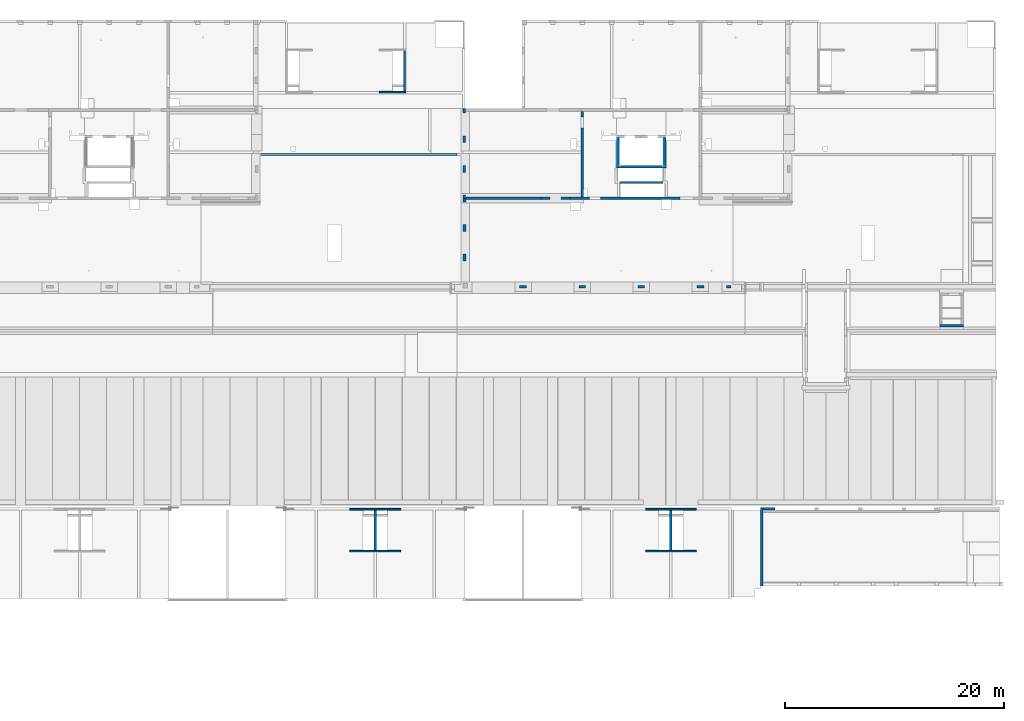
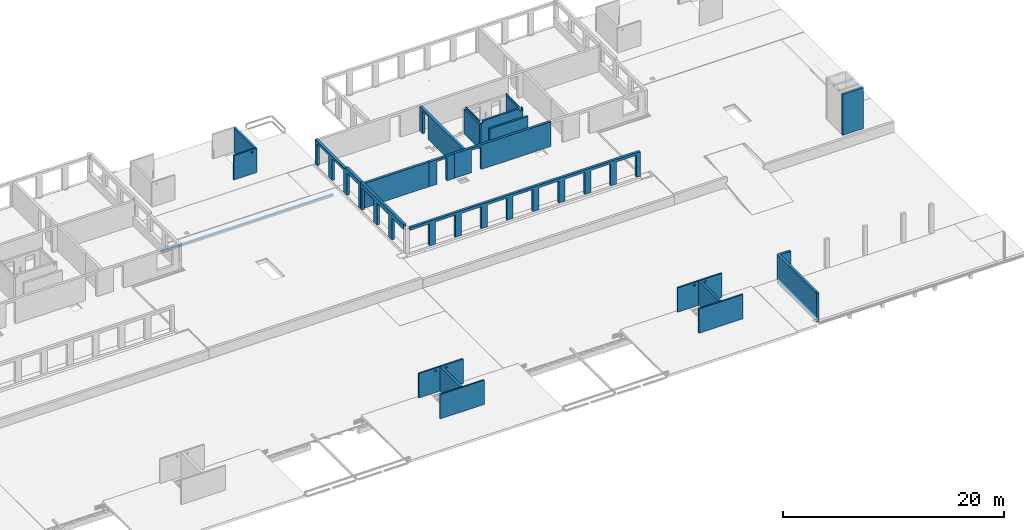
# One storey, part 21 of 36: 25 walls, 37 openings.
"""IFC2X3 building model written with IfcOpenShell, lengths in millimetres."""

import ifcopenshell
import ifcopenshell.guid

model = None  # the IFC model being written
_history = None  # IfcOwnerHistory: only IFC2X3 demands one
_inside = {}  # id of a spatial element -> (the spatial element, [elements in it])
_under = {}  # id of a project, library or spatial element -> (it, [spatial elements below it])
_declared = {}  # id of a project -> (the project, [libraries it declares])
_typed = {}  # id of a type object -> (the type object, [elements of that type])
_made_of = {}  # id of a material, layer set ... -> (it, [elements and type objects made of it])


def new_model(schema):
    """Start an empty IFC model of exactly this schema.

    Asked for "IFC4X3", IfcOpenShell would pick the latest addendum, in which some entities
    have other attributes; the version numbers below select the first issue.
    IFC2X3 requires an IfcOwnerHistory on every rooted entity: one is made here for all.
    """
    global model, _history
    if schema == "IFC4X3":
        model = ifcopenshell.file(schema_version=(4, 3, 0, 0))
    else:
        model = ifcopenshell.file(schema=schema)
    _inside.clear()
    _under.clear()
    _declared.clear()
    _typed.clear()
    _made_of.clear()
    _history = None
    if model.schema == "IFC2X3":
        org = make("IfcOrganization", Name="unknown")
        user = make(
            "IfcPersonAndOrganization",
            ThePerson=make("IfcPerson", FamilyName="unknown"),
            TheOrganization=org,
        )
        app = make(
            "IfcApplication",
            ApplicationDeveloper=org,
            Version="unknown",
            ApplicationFullName="unknown",
            ApplicationIdentifier="unknown",
        )
        _history = make(
            "IfcOwnerHistory",
            OwningUser=user,
            OwningApplication=app,
            ChangeAction="ADDED",
            CreationDate=0,
        )
    return model


def make(cls, **values):
    """One entity of the class cls with the attributes given. An attribute that is None is left unset."""
    return model.create_entity(
        cls, **{name: value for name, value in values.items() if value is not None}
    )


def entity(cls, *values):
    """Any entity or typed value of the class cls, its attributes in the order of the schema. None: left unset."""
    e = model.create_entity(cls)
    for i, value in enumerate(values):
        if value is not None:
            e[i] = value
    return e


def rooted(cls, **values):
    """An entity with a GlobalId (a new one), such as an element, a storey or a relation."""
    return make(cls, GlobalId=ifcopenshell.guid.new(), OwnerHistory=_history, **values)


def si_unit(unit_type, name, prefix=None):
    """IfcSIUnit, for example si_unit("LENGTHUNIT", "METRE", prefix="MILLI")."""
    return make("IfcSIUnit", UnitType=unit_type, Prefix=prefix, Name=name)


def converted_unit(unit_type, name, factor, base, dimensions=None, offset=None):
    """IfcConversionBasedUnit, such as the inch: factor (a typed value) times the base unit."""
    return make(
        "IfcConversionBasedUnit"
        if offset is None
        else "IfcConversionBasedUnitWithOffset",
        ConversionOffset=offset,
        Dimensions=None
        if dimensions is None
        else entity("IfcDimensionalExponents", *dimensions),
        UnitType=unit_type,
        Name=name,
        ConversionFactor=make(
            "IfcMeasureWithUnit", ValueComponent=factor, UnitComponent=base
        ),
    )


def derived_unit(unit_type, elements):
    """IfcDerivedUnit: a product of units, each with its exponent."""
    return make(
        "IfcDerivedUnit",
        Elements=[
            make("IfcDerivedUnitElement", Unit=unit, Exponent=power)
            for unit, power in elements
        ],
        UnitType=unit_type,
    )


def assignment(units):
    """IfcUnitAssignment: the units of a project."""
    return None if units is None else make("IfcUnitAssignment", Units=units)


def point(xyz):
    """IfcCartesianPoint."""
    return None if xyz is None else make("IfcCartesianPoint", Coordinates=xyz)


def direction(xyz):
    """IfcDirection."""
    return None if xyz is None else make("IfcDirection", DirectionRatios=xyz)


def frame(location, z_axis=None, x_axis=None):
    """IfcAxis2Placement3D, a coordinate frame: its origin and axes. An axis left out is left unset."""
    return make(
        "IfcAxis2Placement3D",
        Location=point(location),
        Axis=direction(z_axis),
        RefDirection=direction(x_axis),
    )


def frame_2d(location, x_axis=None):
    """IfcAxis2Placement2D, a coordinate frame in the plane: its origin and x axis."""
    return make(
        "IfcAxis2Placement2D", Location=point(location), RefDirection=direction(x_axis)
    )


def origin():
    """The frame at (0, 0, 0) with its axes left unset."""
    return frame((0.0, 0.0, 0.0))


def origin_2d_with_axis():
    """The frame at (0, 0) in the plane with the x axis (1, 0) written out."""
    return frame_2d((0.0, 0.0), x_axis=(1.0, 0.0))


def place(relative_to, where):
    """IfcLocalPlacement: puts the frame where relative to a parent placement (None: the world)."""
    return make(
        "IfcLocalPlacement", PlacementRelTo=relative_to, RelativePlacement=where
    )


def context(
    kind, dimensions, precision=None, world=None, true_north=None, identifier=None
):
    """IfcGeometricRepresentationContext, for example the 3D "Model" context."""
    return make(
        "IfcGeometricRepresentationContext",
        ContextIdentifier=identifier,
        ContextType=kind,
        CoordinateSpaceDimension=dimensions,
        Precision=precision,
        WorldCoordinateSystem=world,
        TrueNorth=true_north,
    )


def subcontext(parent, identifier, kind, view, scale=None):
    """IfcGeometricRepresentationSubContext, for example "Body" below "Model"."""
    return make(
        "IfcGeometricRepresentationSubContext",
        ContextIdentifier=identifier,
        ContextType=kind,
        ParentContext=parent,
        TargetScale=scale,
        TargetView=view,
    )


def project(units=None, contexts=None):
    """IfcProject with its units and contexts."""
    return rooted(
        "IfcProject",
        Name="project",
        RepresentationContexts=contexts,
        UnitsInContext=assignment(units),
    )


def spatial(cls, under=None, at=None, **own):
    """A site, building, storey or space (cls), placed at a placement, below another one or the project."""
    s = rooted(cls, ObjectPlacement=at, **own)
    if under is not None:
        _under.setdefault(under.id(), (under, []))[1].append(s)
    return s


def profile(cls, at=None, kind="AREA", **sizes):
    """A parametric profile (cls). Its sizes go by their IFC names, for example OverallWidth=200.0."""
    return make(cls, ProfileType=kind, Position=at, **sizes)


def rectangle(**sizes):
    """IfcRectangleProfileDef."""
    return profile("IfcRectangleProfileDef", **sizes)


def circle(**sizes):
    """IfcCircleProfileDef."""
    return profile("IfcCircleProfileDef", **sizes)


def extrude(swept, where, along, depth):
    """IfcExtrudedAreaSolid: the profile swept, set in the frame where, extruded along a direction by depth."""
    return make(
        "IfcExtrudedAreaSolid",
        SweptArea=swept,
        Position=where,
        ExtrudedDirection=direction(along),
        Depth=depth,
    )


def shape(context_of_items, identifier, shape_type, items):
    """IfcShapeRepresentation: the items that make up one representation, for example the "Body"."""
    return make(
        "IfcShapeRepresentation",
        ContextOfItems=context_of_items,
        RepresentationIdentifier=identifier,
        RepresentationType=shape_type,
        Items=items,
    )


def material(Name=None, Category=None):
    """IfcMaterial."""
    return make("IfcMaterial", Name=Name, Category=Category)


def layer(
    of_material, thickness, ventilated=None, Name=None, Category=None, Priority=None
):
    """IfcMaterialLayer: one layer of a wall or slab, of a material (None: an air gap)."""
    return make(
        "IfcMaterialLayer",
        Material=of_material,
        LayerThickness=thickness,
        IsVentilated=ventilated,
        Name=Name,
        Category=Category,
        Priority=Priority,
    )


def layer_set(layers, Name=None):
    """IfcMaterialLayerSet."""
    return make("IfcMaterialLayerSet", MaterialLayers=layers, LayerSetName=Name)


def layer_usage(for_layer_set, set_direction, sense, offset, extent=None):
    """IfcMaterialLayerSetUsage: how a layer set lies in its element."""
    return make(
        "IfcMaterialLayerSetUsage",
        ForLayerSet=for_layer_set,
        LayerSetDirection=set_direction,
        DirectionSense=sense,
        OffsetFromReferenceLine=offset,
        ReferenceExtent=extent,
    )


def made_of(thing, what):
    """Note that an element or type object is made of a material, layer set ...; save() writes the relation."""
    if what is not None:
        _made_of.setdefault(what.id(), (what, []))[1].append(thing)
    return thing


def type_object(cls, material=None, **own):
    """A type object (cls), such as IfcWallType, which elements share."""
    return made_of(rooted(cls, **own), material)


def element(
    cls,
    number,
    at=None,
    inside=None,
    cuts=None,
    type_object=None,
    material=None,
    context=None,
    identifier="Body",
    shape_type=None,
    held_by="IfcProductDefinitionShape",
    body=None,
    shapes=None,
    **own,
):
    """One element of the class cls, such as IfcWall. Its Tag is "e" and its number.

    at: its placement. inside: the storey or other place that contains it. cuts: it is an
    opening in that element (IfcRelVoidsElement). A single representation is given by context,
    identifier, shape_type and body (its items); several are given by shapes. held_by: the class
    of the entity that holds the representations. save() writes the other relations.
    """
    e = rooted(cls, Tag="e%d" % number, ObjectPlacement=at, **own)
    if body is not None:
        shapes = [shape(context, identifier, shape_type, body)]
    if shapes is not None:
        e.Representation = make(held_by, Representations=shapes)
    if inside is not None:
        _inside.setdefault(inside.id(), (inside, []))[1].append(e)
    if cuts is not None:
        rooted(
            "IfcRelVoidsElement", RelatingBuildingElement=cuts, RelatedOpeningElement=e
        )
    if type_object is not None:
        _typed.setdefault(type_object.id(), (type_object, []))[1].append(e)
    return made_of(e, material)


def aggregate(whole, parts):
    """IfcRelAggregates: a whole, such as a stair, and the parts it consists of."""
    return rooted("IfcRelAggregates", RelatingObject=whole, RelatedObjects=parts)


def save(model, path):
    """Write the relations noted so far, then the file.

    IfcRelAggregates (storeys below a building ...), IfcRelContainedInSpatialStructure (elements
    in a storey), IfcRelDefinesByType, IfcRelAssociatesMaterial and IfcRelDeclares: one each for
    every whole, place, type object, material and project.
    """
    for whole, parts in _under.values():
        aggregate(whole, parts)
    for where, things in _inside.values():
        rooted(
            "IfcRelContainedInSpatialStructure",
            RelatedElements=things,
            RelatingStructure=where,
        )
    for kind, things in _typed.values():
        rooted("IfcRelDefinesByType", RelatedObjects=things, RelatingType=kind)
    for what, things in _made_of.values():
        rooted("IfcRelAssociatesMaterial", RelatedObjects=things, RelatingMaterial=what)
    for by, libraries in _declared.values():
        rooted("IfcRelDeclares", RelatingContext=by, RelatedDefinitions=libraries)
    model.write(path)


model = new_model("IFC2X3")

# Units and contexts
model_context = context("Model", 3, precision=0.01, world=origin(), true_north=direction((6.12303176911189e-17, 1.0)))
body_context = subcontext(model_context, "Body", "Model", "MODEL_VIEW")
ifc_project = project(units=[si_unit("LENGTHUNIT", "METRE", prefix="MILLI"), si_unit("AREAUNIT", "SQUARE_METRE"), si_unit("VOLUMEUNIT", "CUBIC_METRE"), converted_unit("PLANEANGLEUNIT", "DEGREE", entity("IfcRatioMeasure", 0.0174532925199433), si_unit("PLANEANGLEUNIT", "RADIAN"), dimensions=[0, 0, 0, 0, 0, 0, 0]), si_unit("MASSUNIT", "GRAM", prefix="KILO"), derived_unit("MASSDENSITYUNIT", [(si_unit("MASSUNIT", "GRAM", prefix="KILO"), 1), (si_unit("LENGTHUNIT", "METRE"), -3)]), si_unit("TIMEUNIT", "SECOND"), si_unit("FREQUENCYUNIT", "HERTZ"), si_unit("THERMODYNAMICTEMPERATUREUNIT", "DEGREE_CELSIUS"), derived_unit("THERMALTRANSMITTANCEUNIT", [(si_unit("MASSUNIT", "GRAM", prefix="KILO"), 1), (si_unit("THERMODYNAMICTEMPERATUREUNIT", "KELVIN"), -1), (si_unit("TIMEUNIT", "SECOND"), -3)]), derived_unit("VOLUMETRICFLOWRATEUNIT", [(si_unit("LENGTHUNIT", "METRE"), 3), (si_unit("TIMEUNIT", "SECOND"), -1)]), si_unit("ELECTRICCURRENTUNIT", "AMPERE"), si_unit("ELECTRICVOLTAGEUNIT", "VOLT"), si_unit("POWERUNIT", "WATT"), si_unit("FORCEUNIT", "NEWTON", prefix="KILO"), si_unit("ILLUMINANCEUNIT", "LUX"), si_unit("LUMINOUSFLUXUNIT", "LUMEN"), si_unit("LUMINOUSINTENSITYUNIT", "CANDELA"), derived_unit("USERDEFINED", [(si_unit("MASSUNIT", "GRAM", prefix="KILO"), -1), (si_unit("LENGTHUNIT", "METRE"), -2), (si_unit("TIMEUNIT", "SECOND"), 3), (si_unit("LUMINOUSFLUXUNIT", "LUMEN"), 1)]), derived_unit("LINEARVELOCITYUNIT", [(si_unit("LENGTHUNIT", "METRE"), 1), (si_unit("TIMEUNIT", "SECOND"), -1)]), si_unit("PRESSUREUNIT", "PASCAL"), derived_unit("USERDEFINED", [(si_unit("LENGTHUNIT", "METRE"), -2), (si_unit("MASSUNIT", "GRAM", prefix="KILO"), 1), (si_unit("TIMEUNIT", "SECOND"), -2)])], contexts=[model_context])

# Site, building, storey
site_placement = place(None, origin())
site = spatial("IfcSite", under=ifc_project, at=site_placement, Name="Default", CompositionType="ELEMENT")
building_placement = place(site_placement, origin())
building = spatial("IfcBuilding", under=site, at=building_placement, Name="niet gebruiken", CompositionType="ELEMENT")
storey_placement = place(building_placement, frame((0.0, 0.0, 12600.0)))
storey = spatial("IfcBuildingStorey", under=building, at=storey_placement, Name="04 vierde verdieping", CompositionType="ELEMENT", Elevation=12600.0)

# Wall, opening
ifc_material_1 = material(Name="NLRS_f2_beton ihwg")
ifc_layer_1 = layer(ifc_material_1, 250.0)
ifc_layer_set_1 = layer_set([ifc_layer_1], Name="Basic Wall:NLRS_22.21_WA_beton ihwg d=250_gen")
ifc_layer_usage_1 = layer_usage(ifc_layer_set_1, "AXIS2", "NEGATIVE", 125.0)
wall_type_1 = type_object("IfcWallType", Name="Basic Wall:NLRS_22.21_WA_beton ihwg d=250_gen", PredefinedType="STANDARD", material=ifc_layer_set_1)
wall_1_placement = place(storey_placement, frame((75770.0, 36981.0, -90.0)))
wall_1 = element("IfcWallStandardCase", 1, at=wall_1_placement, inside=storey, type_object=wall_type_1, material=ifc_layer_usage_1, Name="Basic Wall:NLRS_22.21_WA_beton ihwg d=250_gen", ObjectType="Basic Wall:NLRS_22.21_WA_beton ihwg d=250_gen", context=body_context, shape_type="SweptSolid", body=[
    extrude(rectangle(XDim=6855.00000000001, YDim=250.000000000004, at=frame_2d((3427.50000000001, 0.0), x_axis=(-1.0, 0.0))), origin(), (0.0, 0.0, 1.0), 2719.99999999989),
])
opening_1_placement = place(wall_1_placement, origin())
element("IfcOpeningElement", 2, at=opening_1_placement, cuts=wall_1, Name="Basic Wall:NLRS_22.21_WA_beton ihwg d=250_gen", ObjectType="Recess", context=body_context, shape_type="SweptSolid", body=[
    extrude(rectangle(XDim=55000.0, YDim=19.9999999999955, at=frame_2d((0.0, 4.33164615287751e-12), x_axis=(1.0, 0.0))), frame((10.0, -140.0, 27500.0), z_axis=(0.0, 1.0, 0.0), x_axis=(0.0, 0.0, -1.0)), (0.0, 0.0, 1.0), 124.999999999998),
])

ifc_layer_usage_2 = layer_usage(ifc_layer_set_1, "AXIS2", "NEGATIVE", 125.0)
wall_2_placement = place(storey_placement, frame((86400.0, 44906.0, -90.0), z_axis=(0.0, 0.0, 1.0), x_axis=(0.0, -1.0, 0.0)))
wall_2 = element("IfcWallStandardCase", 3, at=wall_2_placement, inside=storey, type_object=wall_type_1, material=ifc_layer_usage_2, Name="Basic Wall:NLRS_22.21_WA_beton ihwg d=250_gen", ObjectType="Basic Wall:NLRS_22.21_WA_beton ihwg d=250_gen", context=body_context, shape_type="SweptSolid", body=[
    extrude(rectangle(XDim=7799.99999999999, YDim=250.000000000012, at=frame_2d((3900.0, 0.0), x_axis=(-1.0, 0.0))), origin(), (0.0, 0.0, 1.0), 2719.99999999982),
])
opening_2_placement = place(wall_2_placement, origin())
element("IfcOpeningElement", 4, at=opening_2_placement, cuts=wall_2, Name="Basic Wall:NLRS_22.21_WA_beton ihwg d=250_gen", ObjectType="Opening", context=body_context, shape_type="SweptSolid", body=[
    extrude(rectangle(XDim=2470.0, YDim=1006.0, at=origin_2d_with_axis()), frame((1027.0, -1649.0, 1235.0), z_axis=(0.0, 1.0, 0.0), x_axis=(0.0, 0.0, 1.0)), (0.0, 0.0, 1.0), 3048.0),
])

ifc_layer_usage_3 = layer_usage(ifc_layer_set_1, "AXIS2", "NEGATIVE", 125.0)
wall_3_placement = place(storey_placement, frame((82625.0, 36981.0, -90.0)))
wall_3 = element("IfcWallStandardCase", 5, at=wall_3_placement, inside=storey, type_object=wall_type_1, material=ifc_layer_usage_3, Name="Basic Wall:NLRS_22.21_WA_beton ihwg d=250_gen", ObjectType="Basic Wall:NLRS_22.21_WA_beton ihwg d=250_gen", context=body_context, shape_type="SweptSolid", body=[
    extrude(rectangle(XDim=2649.99999999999, YDim=250.000000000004, at=frame_2d((1324.99999999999, 0.0), x_axis=(-1.0, 0.0))), origin(), (0.0, 0.0, 1.0), 2719.99999999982),
])
opening_3_placement = place(wall_3_placement, origin())
element("IfcOpeningElement", 6, at=opening_3_placement, cuts=wall_3, Name="Basic Wall:NLRS_22.21_WA_beton ihwg d=250_gen", ObjectType="Opening", context=body_context, shape_type="SweptSolid", body=[
    extrude(rectangle(XDim=2502.0, YDim=1021.99999999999, at=frame_2d((-8.66862137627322e-12, 0.0), x_axis=(0.0, 1.0))), frame((1350.0, -1399.0, 1251.0), z_axis=(0.0, 1.0, 0.0), x_axis=(-1.0, 0.0, 0.0)), (0.0, 0.0, 1.0), 3048.0),
])

ifc_layer_usage_4 = layer_usage(ifc_layer_set_1, "AXIS2", "NEGATIVE", 125.0)
wall_4_placement = place(storey_placement, frame((85275.0, 36981.0, -90.0)))
wall_4 = element("IfcWallStandardCase", 7, at=wall_4_placement, inside=storey, type_object=wall_type_1, material=ifc_layer_usage_4, Name="Basic Wall:NLRS_22.21_WA_beton ihwg d=250_gen", ObjectType="Basic Wall:NLRS_22.21_WA_beton ihwg d=250_gen", context=body_context, shape_type="SweptSolid", body=[
    extrude(rectangle(XDim=10075.0000000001, YDim=250.000000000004, at=frame_2d((5037.50000000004, 0.0), x_axis=(-1.0, 0.0))), origin(), (0.0, 0.0, 1.0), 2719.99999999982),
])
opening_4_placement = place(wall_4_placement, origin())
element("IfcOpeningElement", 8, at=opening_4_placement, cuts=wall_4, Name="Basic Wall:NLRS_22.21_WA_beton ihwg d=250_gen", ObjectType="Opening", context=body_context, shape_type="SweptSolid", body=[
    extrude(rectangle(XDim=2470.0, YDim=1006.0, at=frame_2d((8.66862137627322e-12, 0.0), x_axis=(0.0, 1.0))), frame((2277.0, -1399.0, 1235.0), z_axis=(0.0, 1.0, 0.0), x_axis=(-1.0, 0.0, 0.0)), (0.0, 0.0, 1.0), 3048.0),
])

# Wall, openings
ifc_material_2 = material(Name="NLRS_f2_beton prefab")
ifc_layer_2 = layer(ifc_material_2, 250.0)
ifc_layer_set_2 = layer_set([ifc_layer_2], Name="Basic Wall:NLRS_21.21_WA_beton prefab d=250_gen")
ifc_layer_usage_5 = layer_usage(ifc_layer_set_2, "AXIS2", "NEGATIVE", 125.0)
wall_type_2 = type_object("IfcWallType", Name="Basic Wall:NLRS_21.21_WA_beton prefab d=250_gen", PredefinedType="STANDARD", material=ifc_layer_set_2)
wall_5_placement = place(storey_placement, frame((75625.0, 45156.0, -60.0), z_axis=(0.0, 0.0, 1.0), x_axis=(0.0, -1.0, 0.0)))
wall_5 = element("IfcWallStandardCase", 9, at=wall_5_placement, inside=storey, type_object=wall_type_2, material=ifc_layer_usage_5, Name="Basic Wall:NLRS_21.21_WA_beton prefab d=250_gen", ObjectType="Basic Wall:NLRS_21.21_WA_beton prefab d=250_gen", context=body_context, shape_type="SweptSolid", body=[
    extrude(rectangle(XDim=8189.99999999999, YDim=249.999999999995, at=frame_2d((4095.0, 0.0), x_axis=(-1.0, 0.0))), origin(), (0.0, 0.0, 1.0), 2940.0),
])
opening_5_placement = place(wall_5_placement, origin())
element("IfcOpeningElement", 10, at=opening_5_placement, cuts=wall_5, Name="Basic Wall:NLRS_21.21_WA_beton prefab d=250_gen", ObjectType="Opening", context=body_context, shape_type="SweptSolid", body=[
    extrude(rectangle(XDim=2420.0, YDim=2080.0, at=frame_2d((0.0, 1.02318153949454e-12), x_axis=(0.0, 1.0))), frame((1450.0, -1399.0, 1200.0), z_axis=(0.0, 1.0, 0.0), x_axis=(-1.0, 0.0, 0.0)), (0.0, 0.0, 1.0), 3048.0),
])
opening_6_placement = place(wall_5_placement, origin())
element("IfcOpeningElement", 11, at=opening_6_placement, cuts=wall_5, Name="Basic Wall:NLRS_21.21_WA_beton prefab d=250_gen", ObjectType="Opening", context=body_context, shape_type="SweptSolid", body=[
    extrude(rectangle(XDim=2420.0, YDim=2080.0, at=frame_2d((0.0, 1.02318153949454e-12), x_axis=(0.0, 1.0))), frame((4150.0, -1399.0, 1200.0), z_axis=(0.0, 1.0, 0.0), x_axis=(-1.0, 0.0, 0.0)), (0.0, 0.0, 1.0), 3048.0),
])
opening_7_placement = place(wall_5_placement, origin())
element("IfcOpeningElement", 12, at=opening_7_placement, cuts=wall_5, Name="Basic Wall:NLRS_21.21_WA_beton prefab d=250_gen", ObjectType="Opening", context=body_context, shape_type="SweptSolid", body=[
    extrude(rectangle(XDim=2420.0, YDim=2080.0, at=frame_2d((0.0, 1.02318153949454e-12), x_axis=(0.0, 1.0))), frame((6850.0, -1399.0, 1200.0), z_axis=(0.0, 1.0, 0.0), x_axis=(-1.0, 0.0, 0.0)), (0.0, 0.0, 1.0), 3048.0),
])
opening_8_placement = place(wall_5_placement, origin())
element("IfcOpeningElement", 13, at=opening_8_placement, cuts=wall_5, Name="Basic Wall:NLRS_21.21_WA_beton prefab d=250_gen", ObjectType="Opening", context=body_context, shape_type="SweptSolid", body=[
    extrude(rectangle(XDim=250.000000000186, YDim=5499.99999999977, at=frame_2d((0.0, 0.0), x_axis=(0.0, 1.0))), frame((2750.0, 125.0, 2815.0), z_axis=(0.0, -1.0, 0.0), x_axis=(-1.0, 0.0, 0.0)), (0.0, 0.0, 1.0), 250.0),
])

# Wall, opening
ifc_layer_usage_6 = layer_usage(ifc_layer_set_2, "AXIS2", "NEGATIVE", 125.0)
wall_6_placement = place(storey_placement, frame((102800.0, 1571.0, -670.0), z_axis=(0.0, 0.0, 1.0), x_axis=(0.0, 1.0, 0.0)))
wall_6 = element("IfcWallStandardCase", 14, at=wall_6_placement, inside=storey, type_object=wall_type_2, material=ifc_layer_usage_6, Name="Basic Wall:NLRS_21.21_WA_beton prefab d=250_gen", ObjectType="Basic Wall:NLRS_21.21_WA_beton prefab d=250_gen", context=body_context, shape_type="SweptSolid", body=[
    extrude(rectangle(XDim=7175.00000000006, YDim=250.000000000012, at=frame_2d((3587.50000000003, -1.27897692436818e-13), x_axis=(-1.0, 0.0))), origin(), (0.0, 0.0, 1.0), 3200.0),
])
opening_9_placement = place(wall_6_placement, origin())
element("IfcOpeningElement", 15, at=opening_9_placement, cuts=wall_6, Name="Basic Wall:NLRS_21.21_WA_beton prefab d=250_gen", ObjectType="Opening", context=body_context, shape_type="SweptSolid", body=[
    extrude(rectangle(XDim=29.9999999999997, YDim=209.000000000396, at=frame_2d((0.0, -1.08268949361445e-12), x_axis=(0.0, 1.0))), frame((104.500000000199, 125.0, 3185.0), z_axis=(0.0, -1.0, 0.0), x_axis=(-1.0, 0.0, 0.0)), (0.0, 0.0, 1.0), 250.0),
])

ifc_layer_usage_7 = layer_usage(ifc_layer_set_2, "AXIS2", "NEGATIVE", 125.0)
wall_7_placement = place(storey_placement, frame((102925.0, 8621.0, -670.0)))
wall_7 = element("IfcWallStandardCase", 16, at=wall_7_placement, inside=storey, type_object=wall_type_2, material=ifc_layer_usage_7, Name="Basic Wall:NLRS_21.21_WA_beton prefab d=250_gen", ObjectType="Basic Wall:NLRS_21.21_WA_beton prefab d=250_gen", context=body_context, shape_type="SweptSolid", body=[
    extrude(rectangle(XDim=1074.99990799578, YDim=249.999999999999, at=frame_2d((537.499953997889, 4.05009359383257e-13), x_axis=(-1.0, 0.0))), origin(), (0.0, 0.0, 1.0), 3200.0),
])
opening_10_placement = place(wall_7_placement, origin())
element("IfcOpeningElement", 17, at=opening_10_placement, cuts=wall_7, Name="Basic Wall:NLRS_21.21_WA_beton prefab d=250_gen", ObjectType="Opening", context=body_context, shape_type="SweptSolid", body=[
    extrude(rectangle(XDim=30.0000000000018, YDim=194.99999999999, at=frame_2d((0.0, 8.66151594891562e-12), x_axis=(1.0, 0.0))), frame((977.499907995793, 125.0, 3185.0), z_axis=(0.0, -1.0, 0.0), x_axis=(0.0, 0.0, 1.0)), (0.0, 0.0, 1.0), 250.0),
])

# Walls
ifc_layer_3 = layer(ifc_material_2, 200.0)
ifc_layer_set_3 = layer_set([ifc_layer_3], Name="Basic Wall:NLRS_21.21_WA_beton prefab d=200_gen")
ifc_layer_usage_8 = layer_usage(ifc_layer_set_3, "AXIS2", "NEGATIVE", 100.0)
wall_type_3 = type_object("IfcWallType", Name="Basic Wall:NLRS_21.21_WA_beton prefab d=200_gen", PredefinedType="STANDARD", material=ifc_layer_set_3)
wall_8_placement = place(storey_placement, frame((89800.0, 38426.0, -70.0)))
element("IfcWallStandardCase", 18, at=wall_8_placement, inside=storey, type_object=wall_type_3, material=ifc_layer_usage_8, Name="Basic Wall:NLRS_21.21_WA_beton prefab d=200_gen", ObjectType="Basic Wall:NLRS_21.21_WA_beton prefab d=200_gen", context=body_context, shape_type="SweptSolid", body=[
    extrude(rectangle(XDim=3999.99999999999, YDim=199.999999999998, at=frame_2d((2000.0, 0.0), x_axis=(-1.0, 0.0))), origin(), (0.0, 0.0, 1.0), 2950.00000000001),
])
ifc_layer_4 = layer(ifc_material_2, 200.0)
ifc_layer_set_4 = layer_set([ifc_layer_4], Name="Basic Wall:NLRS_22.21_WA_beton prefab d=200_gen")
ifc_layer_usage_9 = layer_usage(ifc_layer_set_4, "AXIS2", "NEGATIVE", 100.0)
wall_type_4 = type_object("IfcWallType", Name="Basic Wall:NLRS_22.21_WA_beton prefab d=200_gen", PredefinedType="STANDARD", material=ifc_layer_set_4)
wall_9_placement = place(storey_placement, frame((89625.0, 42496.0, -70.0), z_axis=(0.0, 0.0, 1.0), x_axis=(0.0, -1.0, 0.0)))
element("IfcWallStandardCase", 19, at=wall_9_placement, inside=storey, type_object=wall_type_4, material=ifc_layer_usage_9, Name="Basic Wall:NLRS_22.21_WA_beton prefab d=200_gen", ObjectType="Basic Wall:NLRS_22.21_WA_beton prefab d=200_gen", context=body_context, shape_type="SweptSolid", body=[
    extrude(rectangle(XDim=2749.99999999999, YDim=199.999999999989, at=frame_2d((1375.0, 0.0), x_axis=(-1.0, 0.0))), origin(), (0.0, 0.0, 1.0), 2699.99999999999),
])

# Wall, openings
ifc_layer_usage_10 = layer_usage(ifc_layer_set_4, "AXIS2", "NEGATIVE", 100.0)
wall_10_placement = place(storey_placement, frame((94075.0, 39846.0, -70.0), z_axis=(0.0, 0.0, 1.0), x_axis=(-1.0, 0.0, 0.0)))
wall_10 = element("IfcWallStandardCase", 20, at=wall_10_placement, inside=storey, type_object=wall_type_4, material=ifc_layer_usage_10, Name="Basic Wall:NLRS_22.21_WA_beton prefab d=200_gen", ObjectType="Basic Wall:NLRS_22.21_WA_beton prefab d=200_gen", context=body_context, shape_type="SweptSolid", body=[
    extrude(rectangle(XDim=4350.00000000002, YDim=200.000000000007, at=frame_2d((2175.00000000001, 0.0), x_axis=(-1.0, 0.0))), origin(), (0.0, 0.0, 1.0), 2950.0),
])
opening_11_placement = place(wall_10_placement, origin())
element("IfcOpeningElement", 21, at=opening_11_placement, cuts=wall_10, Name="Basic Wall:NLRS_22.21_WA_beton prefab d=200_gen", ObjectType="Opening", context=body_context, shape_type="SweptSolid", body=[
    extrude(rectangle(XDim=250.000000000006, YDim=274.999967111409, at=frame_2d((1.08002495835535e-12, -8.65441052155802e-12), x_axis=(1.0, 0.0))), frame((4312.5000164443, 100.0, 2825.0), z_axis=(0.0, -1.0, 0.0), x_axis=(0.0, 0.0, 1.0)), (0.0, 0.0, 1.0), 200.0),
])
opening_12_placement = place(wall_10_placement, origin())
element("IfcOpeningElement", 22, at=opening_12_placement, cuts=wall_10, Name="Basic Wall:NLRS_22.21_WA_beton prefab d=200_gen", ObjectType="Opening", context=body_context, shape_type="SweptSolid", body=[
    extrude(rectangle(XDim=250.000000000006, YDim=275.000032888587, at=frame_2d((0.0, -1.08002495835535e-12), x_axis=(0.0, 1.0))), frame((237.500016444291, 100.0, 2825.0), z_axis=(0.0, -1.0, 0.0), x_axis=(-1.0, 0.0, 0.0)), (0.0, 0.0, 1.0), 200.0),
])

# Walls
ifc_layer_usage_11 = layer_usage(ifc_layer_set_4, "AXIS2", "NEGATIVE", 100.0)
wall_11_placement = place(storey_placement, frame((93975.0, 39946.0, -70.0), z_axis=(0.0, 0.0, 1.0), x_axis=(0.0, 1.0, 0.0)))
element("IfcWallStandardCase", 23, at=wall_11_placement, inside=storey, type_object=wall_type_4, material=ifc_layer_usage_11, Name="Basic Wall:NLRS_22.21_WA_beton prefab d=200_gen", ObjectType="Basic Wall:NLRS_22.21_WA_beton prefab d=200_gen", context=body_context, shape_type="SweptSolid", body=[
    extrude(rectangle(XDim=2549.99999999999, YDim=199.999999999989, at=frame_2d((1275.0, 0.0), x_axis=(-1.0, 0.0))), origin(), (0.0, 0.0, 1.0), 2699.99999999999),
])
ifc_layer_usage_12 = layer_usage(ifc_layer_set_4, "AXIS2", "NEGATIVE", 100.0)
wall_12_placement = place(storey_placement, frame((121225.0, 25326.0, -140.0), z_axis=(0.0, 0.0, 1.0), x_axis=(-1.0, 0.0, 0.0)))
element("IfcWallStandardCase", 24, at=wall_12_placement, inside=storey, type_object=wall_type_4, material=ifc_layer_usage_12, Name="Basic Wall:NLRS_22.21_WA_beton prefab d=200_gen", ObjectType="Basic Wall:NLRS_22.21_WA_beton prefab d=200_gen", context=body_context, shape_type="SweptSolid", body=[
    extrude(rectangle(XDim=2150.00000000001, YDim=199.999999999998, at=frame_2d((1075.00000000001, -2.48689957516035e-13), x_axis=(-1.0, 0.0))), origin(), (0.0, 0.0, 1.0), 4530.0),
])

# Wall, openings
ifc_layer_5 = layer(ifc_material_1, 250.0)
ifc_layer_set_5 = layer_set([ifc_layer_5], Name="Basic Wall:NLRS_21.21_WA_beton ihwg d=250_gen")
ifc_layer_usage_13 = layer_usage(ifc_layer_set_5, "AXIS2", "NEGATIVE", 125.0)
wall_type_5 = type_object("IfcWallType", Name="Basic Wall:NLRS_21.21_WA_beton ihwg d=250_gen", PredefinedType="STANDARD", material=ifc_layer_set_5)
wall_13_placement = place(storey_placement, frame((75930.0, 28881.0, -90.0)))
wall_13 = element("IfcWallStandardCase", 25, at=wall_13_placement, inside=storey, type_object=wall_type_5, material=ifc_layer_usage_13, Name="Basic Wall:NLRS_21.21_WA_beton ihwg d=250_gen", ObjectType="Basic Wall:NLRS_21.21_WA_beton ihwg d=250_gen", context=body_context, shape_type="SweptSolid", body=[
    extrude(rectangle(XDim=24070.0, YDim=250.000000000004, at=frame_2d((12035.0, 8.10018718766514e-13), x_axis=(-1.0, 0.0))), origin(), (0.0, 0.0, 1.0), 2720.0),
])
opening_13_placement = place(wall_13_placement, origin())
element("IfcOpeningElement", 26, at=opening_13_placement, cuts=wall_13, Name="Basic Wall:NLRS_21.21_WA_beton ihwg d=250_gen", ObjectType="Opening", context=body_context, shape_type="SweptSolid", body=[
    extrude(rectangle(XDim=2440.0, YDim=2080.0, at=frame_2d((-8.64019966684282e-12, 1.13686837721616e-12), x_axis=(0.0, 1.0))), frame((22620.0, -1399.0, 1220.0), z_axis=(0.0, 1.0, 0.0), x_axis=(-1.0, 0.0, 0.0)), (0.0, 0.0, 1.0), 3048.0),
])
opening_14_placement = place(wall_13_placement, origin())
element("IfcOpeningElement", 27, at=opening_14_placement, cuts=wall_13, Name="Basic Wall:NLRS_21.21_WA_beton ihwg d=250_gen", ObjectType="Opening", context=body_context, shape_type="SweptSolid", body=[
    extrude(rectangle(XDim=2440.0, YDim=2080.0, at=frame_2d((8.64019966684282e-12, -1.13686837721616e-12), x_axis=(0.0, 1.0))), frame((19920.0, -1399.0, 1220.0), z_axis=(0.0, 1.0, 0.0), x_axis=(-1.0, 0.0, 0.0)), (0.0, 0.0, 1.0), 3048.0),
])
opening_15_placement = place(wall_13_placement, origin())
element("IfcOpeningElement", 28, at=opening_15_placement, cuts=wall_13, Name="Basic Wall:NLRS_21.21_WA_beton ihwg d=250_gen", ObjectType="Opening", context=body_context, shape_type="SweptSolid", body=[
    extrude(rectangle(XDim=2440.0, YDim=2080.0, at=frame_2d((8.64019966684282e-12, 1.13686837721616e-12), x_axis=(0.0, 1.0))), frame((17220.0, -1399.0, 1220.0), z_axis=(0.0, 1.0, 0.0), x_axis=(-1.0, 0.0, 0.0)), (0.0, 0.0, 1.0), 3048.0),
])
opening_16_placement = place(wall_13_placement, origin())
element("IfcOpeningElement", 29, at=opening_16_placement, cuts=wall_13, Name="Basic Wall:NLRS_21.21_WA_beton ihwg d=250_gen", ObjectType="Opening", context=body_context, shape_type="SweptSolid", body=[
    extrude(rectangle(XDim=2440.0, YDim=2080.0, at=frame_2d((-8.64019966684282e-12, -1.13686837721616e-12), x_axis=(0.0, 1.0))), frame((14520.0, -1399.0, 1220.0), z_axis=(0.0, 1.0, 0.0), x_axis=(-1.0, 0.0, 0.0)), (0.0, 0.0, 1.0), 3048.0),
])
opening_17_placement = place(wall_13_placement, origin())
element("IfcOpeningElement", 30, at=opening_17_placement, cuts=wall_13, Name="Basic Wall:NLRS_21.21_WA_beton ihwg d=250_gen", ObjectType="Opening", context=body_context, shape_type="SweptSolid", body=[
    extrude(rectangle(XDim=2440.0, YDim=2080.0, at=frame_2d((8.64019966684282e-12, 1.13686837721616e-12), x_axis=(0.0, 1.0))), frame((11820.0, -1399.0, 1220.0), z_axis=(0.0, 1.0, 0.0), x_axis=(-1.0, 0.0, 0.0)), (0.0, 0.0, 1.0), 3048.0),
])
opening_18_placement = place(wall_13_placement, origin())
element("IfcOpeningElement", 31, at=opening_18_placement, cuts=wall_13, Name="Basic Wall:NLRS_21.21_WA_beton ihwg d=250_gen", ObjectType="Opening", context=body_context, shape_type="SweptSolid", body=[
    extrude(rectangle(XDim=2440.0, YDim=2080.0, at=frame_2d((8.64019966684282e-12, -1.13686837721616e-12), x_axis=(0.0, 1.0))), frame((9120.0, -1399.0, 1220.0), z_axis=(0.0, 1.0, 0.0), x_axis=(-1.0, 0.0, 0.0)), (0.0, 0.0, 1.0), 3048.0),
])
opening_19_placement = place(wall_13_placement, origin())
element("IfcOpeningElement", 32, at=opening_19_placement, cuts=wall_13, Name="Basic Wall:NLRS_21.21_WA_beton ihwg d=250_gen", ObjectType="Opening", context=body_context, shape_type="SweptSolid", body=[
    extrude(rectangle(XDim=2440.0, YDim=2080.0, at=frame_2d((-8.64019966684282e-12, 1.13686837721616e-12), x_axis=(0.0, 1.0))), frame((6420.0, -1399.0, 1220.0), z_axis=(0.0, 1.0, 0.0), x_axis=(-1.0, 0.0, 0.0)), (0.0, 0.0, 1.0), 3048.0),
])
opening_20_placement = place(wall_13_placement, origin())
element("IfcOpeningElement", 33, at=opening_20_placement, cuts=wall_13, Name="Basic Wall:NLRS_21.21_WA_beton ihwg d=250_gen", ObjectType="Opening", context=body_context, shape_type="SweptSolid", body=[
    extrude(rectangle(XDim=2440.0, YDim=2080.0, at=frame_2d((-8.64019966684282e-12, -1.13686837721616e-12), x_axis=(0.0, 1.0))), frame((3720.0, -1399.0, 1220.0), z_axis=(0.0, 1.0, 0.0), x_axis=(-1.0, 0.0, 0.0)), (0.0, 0.0, 1.0), 3048.0),
])
opening_21_placement = place(wall_13_placement, origin())
element("IfcOpeningElement", 34, at=opening_21_placement, cuts=wall_13, Name="Basic Wall:NLRS_21.21_WA_beton ihwg d=250_gen", ObjectType="Opening", context=body_context, shape_type="SweptSolid", body=[
    extrude(rectangle(XDim=2440.0, YDim=2080.0, at=frame_2d((0.0, 1.13686837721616e-12), x_axis=(0.0, 1.0))), frame((1020.0, -1399.0, 1220.0), z_axis=(0.0, 1.0, 0.0), x_axis=(-1.0, 0.0, 0.0)), (0.0, 0.0, 1.0), 3048.0),
])

# Walls
ifc_layer_usage_14 = layer_usage(ifc_layer_set_5, "AXIS2", "NEGATIVE", 125.0)
wall_14_placement = place(storey_placement, frame((67500.0, 8496.0, -90.0), z_axis=(0.0, 0.0, 1.0), x_axis=(0.0, -1.0, 0.0)))
element("IfcWallStandardCase", 35, at=wall_14_placement, inside=storey, type_object=wall_type_5, material=ifc_layer_usage_14, Name="Basic Wall:NLRS_21.21_WA_beton ihwg d=250_gen", ObjectType="Basic Wall:NLRS_21.21_WA_beton ihwg d=250_gen", context=body_context, shape_type="SweptSolid", body=[
    extrude(rectangle(XDim=3679.99999999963, YDim=249.999999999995, at=frame_2d((1839.99999999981, -1.15818465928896e-12), x_axis=(-1.0, 0.0))), origin(), (0.0, 0.0, 1.0), 2690.0),
])
ifc_layer_usage_15 = layer_usage(ifc_layer_set_5, "AXIS2", "NEGATIVE", 125.0)
wall_15_placement = place(storey_placement, frame((94500.0, 8496.0, -90.0), z_axis=(0.0, 0.0, 1.0), x_axis=(0.0, -1.0, 0.0)))
element("IfcWallStandardCase", 36, at=wall_15_placement, inside=storey, type_object=wall_type_5, material=ifc_layer_usage_15, Name="Basic Wall:NLRS_21.21_WA_beton ihwg d=250_gen", ObjectType="Basic Wall:NLRS_21.21_WA_beton ihwg d=250_gen", context=body_context, shape_type="SweptSolid", body=[
    extrude(rectangle(XDim=3679.99999999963, YDim=250.000000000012, at=frame_2d((1839.99999999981, 3.16902060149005e-12), x_axis=(-1.0, 0.0))), origin(), (0.0, 0.0, 1.0), 2690.0),
])
wall_type_6 = type_object("IfcWallType", Name="NLRS_21.21_SF_WPB_oplegnok ihwg beton_gen:200x250", PredefinedType="NOTDEFINED", material=ifc_material_1)
wall_16_placement = place(storey_placement, frame((57025.0, 40861.0, -900.0)))
element("IfcWall", 37, at=wall_16_placement, inside=storey, type_object=wall_type_6, material=ifc_material_1, Name="NLRS_21.21_SF_WPB_oplegnok ihwg beton_gen:200x250", ObjectType="NLRS_21.21_SF_WPB_oplegnok ihwg beton_gen:200x250", context=body_context, shape_type="SweptSolid", body=[
    extrude(rectangle(XDim=17924.9999999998, YDim=199.999999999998, at=frame_2d((2465.83333333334, -33.3333333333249), x_axis=(1.0, 0.0))), frame((6496.66666666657, 133.333333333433, 3.78137201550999e-09)), (0.0, 0.0, 1.0), 250.000000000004),
])

# Wall, openings
ifc_layer_6 = layer(ifc_material_1, 150.0)
ifc_layer_set_6 = layer_set([ifc_layer_6], Name="Basic Wall:NLRS_21.21_WA_beton ihwg d=150_gen")
ifc_layer_usage_16 = layer_usage(ifc_layer_set_6, "AXIS2", "NEGATIVE", 75.0)
wall_type_7 = type_object("IfcWallType", Name="Basic Wall:NLRS_21.21_WA_beton ihwg d=150_gen", PredefinedType="STANDARD", material=ifc_layer_set_6)
wall_17_placement = place(storey_placement, frame((65190.0, 8571.0, -90.0)))
wall_17 = element("IfcWallStandardCase", 38, at=wall_17_placement, inside=storey, type_object=wall_type_7, material=ifc_layer_usage_16, Name="Basic Wall:NLRS_21.21_WA_beton ihwg d=150_gen", ObjectType="Basic Wall:NLRS_21.21_WA_beton ihwg d=150_gen", context=body_context, shape_type="SweptSolid", body=[
    extrude(rectangle(XDim=4620.00000000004, YDim=150.000000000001, at=frame_2d((2310.00000000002, 2.1316282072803e-13), x_axis=(-1.0, 0.0))), origin(), (0.0, 0.0, 1.0), 2690.0),
])
opening_22_placement = place(wall_17_placement, origin())
element("IfcOpeningElement", 39, at=opening_22_placement, cuts=wall_17, Name="Basic Wall:NLRS_21.21_WA_beton ihwg d=150_gen", ObjectType="Opening", context=body_context, shape_type="SweptSolid", body=[
    extrude(circle(Radius=100.0, at=origin_2d_with_axis()), frame((1750.0, -75.0, 2390.0), z_axis=(0.0, 1.0, 0.0), x_axis=(1.0, 0.0, 0.0)), (0.0, 0.0, 1.0), 150.000000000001),
])
opening_23_placement = place(wall_17_placement, origin())
element("IfcOpeningElement", 40, at=opening_23_placement, cuts=wall_17, Name="Basic Wall:NLRS_21.21_WA_beton ihwg d=150_gen", ObjectType="Opening", context=body_context, shape_type="SweptSolid", body=[
    extrude(circle(Radius=100.0, at=origin_2d_with_axis()), frame((2870.0, -75.0, 2390.0), z_axis=(0.0, 1.0, 0.0), x_axis=(1.0, 0.0, 0.0)), (0.0, 0.0, 1.0), 149.999999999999),
])

ifc_layer_usage_17 = layer_usage(ifc_layer_set_6, "AXIS2", "NEGATIVE", 75.0)
wall_18_placement = place(storey_placement, frame((65190.0, 4741.0, -90.0)))
wall_18 = element("IfcWallStandardCase", 41, at=wall_18_placement, inside=storey, type_object=wall_type_7, material=ifc_layer_usage_17, Name="Basic Wall:NLRS_21.21_WA_beton ihwg d=150_gen", ObjectType="Basic Wall:NLRS_21.21_WA_beton ihwg d=150_gen", context=body_context, shape_type="SweptSolid", body=[
    extrude(rectangle(XDim=4620.00000000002, YDim=149.999999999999, at=frame_2d((2310.00000000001, 2.1316282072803e-13), x_axis=(-1.0, 0.0))), origin(), (0.0, 0.0, 1.0), 2690.0),
])
opening_24_placement = place(wall_18_placement, origin())
element("IfcOpeningElement", 42, at=opening_24_placement, cuts=wall_18, Name="Basic Wall:NLRS_21.21_WA_beton ihwg d=150_gen", ObjectType="Recess", context=body_context, shape_type="SweptSolid", body=[
    extrude(rectangle(XDim=75.0000000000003, YDim=124.999999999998, at=frame_2d((0.0, 4.33075797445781e-12), x_axis=(1.0, 0.0))), frame((4557.50000000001, 0.0, 912.500000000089), z_axis=(0.0, 1.0, 0.0), x_axis=(0.0, 0.0, -1.0)), (0.0, 0.0, 1.0), 75.0000000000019),
])
opening_25_placement = place(wall_18_placement, origin())
element("IfcOpeningElement", 43, at=opening_25_placement, cuts=wall_18, Name="Basic Wall:NLRS_21.21_WA_beton ihwg d=150_gen", ObjectType="Recess", context=body_context, shape_type="SweptSolid", body=[
    extrude(rectangle(XDim=875.0, YDim=49.9999999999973, at=frame_2d((0.0, -4.33253433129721e-12), x_axis=(1.0, 0.0))), frame((4520.0, 35.0, 437.500000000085), z_axis=(0.0, 1.0, 0.0), x_axis=(0.0, 0.0, -1.0)), (0.0, 0.0, 1.0), 40.0000000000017),
])
opening_26_placement = place(wall_18_placement, origin())
element("IfcOpeningElement", 44, at=opening_26_placement, cuts=wall_18, Name="Basic Wall:NLRS_21.21_WA_beton ihwg d=150_gen", ObjectType="Recess", context=body_context, shape_type="SweptSolid", body=[
    extrude(rectangle(XDim=875.0, YDim=49.9999999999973, at=frame_2d((0.0, -4.33253433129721e-12), x_axis=(1.0, 0.0))), frame((100.0, 35.0, 437.500000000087), z_axis=(0.0, 1.0, 0.0), x_axis=(0.0, 0.0, -1.0)), (0.0, 0.0, 1.0), 40.0000000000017),
])
opening_27_placement = place(wall_18_placement, origin())
element("IfcOpeningElement", 45, at=opening_27_placement, cuts=wall_18, Name="Basic Wall:NLRS_21.21_WA_beton ihwg d=150_gen", ObjectType="Recess", context=body_context, shape_type="SweptSolid", body=[
    extrude(rectangle(XDim=75.0000000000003, YDim=124.999999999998, at=frame_2d((0.0, -4.33075797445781e-12), x_axis=(1.0, 0.0))), frame((62.500000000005, 0.0, 912.500000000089), z_axis=(0.0, 1.0, 0.0), x_axis=(0.0, 0.0, -1.0)), (0.0, 0.0, 1.0), 75.0000000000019),
])

ifc_layer_usage_18 = layer_usage(ifc_layer_set_6, "AXIS2", "NEGATIVE", 75.0)
wall_19_placement = place(storey_placement, frame((92190.0, 8571.0, -90.0)))
wall_19 = element("IfcWallStandardCase", 46, at=wall_19_placement, inside=storey, type_object=wall_type_7, material=ifc_layer_usage_18, Name="Basic Wall:NLRS_21.21_WA_beton ihwg d=150_gen", ObjectType="Basic Wall:NLRS_21.21_WA_beton ihwg d=150_gen", context=body_context, shape_type="SweptSolid", body=[
    extrude(rectangle(XDim=4620.00000000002, YDim=150.000000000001, at=frame_2d((2310.00000000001, 2.1316282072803e-13), x_axis=(-1.0, 0.0))), origin(), (0.0, 0.0, 1.0), 2690.0),
])
opening_28_placement = place(wall_19_placement, origin())
element("IfcOpeningElement", 47, at=opening_28_placement, cuts=wall_19, Name="Basic Wall:NLRS_21.21_WA_beton ihwg d=150_gen", ObjectType="Opening", context=body_context, shape_type="SweptSolid", body=[
    extrude(circle(Radius=100.0, at=origin_2d_with_axis()), frame((1750.0, -75.0, 2390.0), z_axis=(0.0, 1.0, 0.0), x_axis=(1.0, 0.0, 0.0)), (0.0, 0.0, 1.0), 150.000000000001),
])
opening_29_placement = place(wall_19_placement, origin())
element("IfcOpeningElement", 48, at=opening_29_placement, cuts=wall_19, Name="Basic Wall:NLRS_21.21_WA_beton ihwg d=150_gen", ObjectType="Opening", context=body_context, shape_type="SweptSolid", body=[
    extrude(circle(Radius=100.0, at=origin_2d_with_axis()), frame((2870.0, -75.0, 2390.0), z_axis=(0.0, 1.0, 0.0), x_axis=(1.0, 0.0, 0.0)), (0.0, 0.0, 1.0), 149.999999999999),
])

ifc_layer_usage_19 = layer_usage(ifc_layer_set_6, "AXIS2", "NEGATIVE", 75.0)
wall_20_placement = place(storey_placement, frame((92190.0, 4741.0, -90.0)))
wall_20 = element("IfcWallStandardCase", 49, at=wall_20_placement, inside=storey, type_object=wall_type_7, material=ifc_layer_usage_19, Name="Basic Wall:NLRS_21.21_WA_beton ihwg d=150_gen", ObjectType="Basic Wall:NLRS_21.21_WA_beton ihwg d=150_gen", context=body_context, shape_type="SweptSolid", body=[
    extrude(rectangle(XDim=4620.00000000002, YDim=149.999999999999, at=frame_2d((2310.00000000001, 2.1316282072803e-13), x_axis=(-1.0, 0.0))), origin(), (0.0, 0.0, 1.0), 2690.0),
])
opening_30_placement = place(wall_20_placement, origin())
element("IfcOpeningElement", 50, at=opening_30_placement, cuts=wall_20, Name="Basic Wall:NLRS_21.21_WA_beton ihwg d=150_gen", ObjectType="Recess", context=body_context, shape_type="SweptSolid", body=[
    extrude(rectangle(XDim=75.0000000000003, YDim=125.000000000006, at=frame_2d((0.0, -8.66151594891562e-12), x_axis=(1.0, 0.0))), frame((4557.50000000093, 0.0, 912.500000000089), z_axis=(0.0, 1.0, 0.0), x_axis=(0.0, 0.0, -1.0)), (0.0, 0.0, 1.0), 75.0000000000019),
])
opening_31_placement = place(wall_20_placement, origin())
element("IfcOpeningElement", 51, at=opening_31_placement, cuts=wall_20, Name="Basic Wall:NLRS_21.21_WA_beton ihwg d=150_gen", ObjectType="Recess", context=body_context, shape_type="SweptSolid", body=[
    extrude(rectangle(XDim=875.0, YDim=50.000000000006, at=frame_2d((0.0, -8.66329230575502e-12), x_axis=(1.0, 0.0))), frame((4520.0, 35.0, 437.500000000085), z_axis=(0.0, 1.0, 0.0), x_axis=(0.0, 0.0, -1.0)), (0.0, 0.0, 1.0), 40.0000000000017),
])
opening_32_placement = place(wall_20_placement, origin())
element("IfcOpeningElement", 52, at=opening_32_placement, cuts=wall_20, Name="Basic Wall:NLRS_21.21_WA_beton ihwg d=150_gen", ObjectType="Recess", context=body_context, shape_type="SweptSolid", body=[
    extrude(rectangle(XDim=875.0, YDim=50.000000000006, at=frame_2d((0.0, 8.66329230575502e-12), x_axis=(1.0, 0.0))), frame((100.0, 35.0, 437.500000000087), z_axis=(0.0, 1.0, 0.0), x_axis=(0.0, 0.0, -1.0)), (0.0, 0.0, 1.0), 40.0000000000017),
])
opening_33_placement = place(wall_20_placement, origin())
element("IfcOpeningElement", 53, at=opening_33_placement, cuts=wall_20, Name="Basic Wall:NLRS_21.21_WA_beton ihwg d=150_gen", ObjectType="Recess", context=body_context, shape_type="SweptSolid", body=[
    extrude(rectangle(XDim=75.0000000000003, YDim=125.000000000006, at=frame_2d((0.0, -8.66151594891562e-12), x_axis=(1.0, 0.0))), frame((62.5000000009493, 0.0, 912.500000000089), z_axis=(0.0, 1.0, 0.0), x_axis=(0.0, 0.0, -1.0)), (0.0, 0.0, 1.0), 75.0000000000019),
])

# Wall, opening
ifc_layer_usage_20 = layer_usage(ifc_layer_set_6, "AXIS2", "NEGATIVE", 75.0)
wall_21_placement = place(storey_placement, frame((67870.0, 46671.0, -90.0)))
wall_21 = element("IfcWallStandardCase", 54, at=wall_21_placement, inside=storey, type_object=wall_type_7, material=ifc_layer_usage_20, Name="Basic Wall:NLRS_21.21_WA_beton ihwg d=150_gen", ObjectType="Basic Wall:NLRS_21.21_WA_beton ihwg d=150_gen", context=body_context, shape_type="SweptSolid", body=[
    extrude(rectangle(XDim=2405.00000000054, YDim=150.000000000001, at=frame_2d((1202.50000000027, 5.6843418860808e-14), x_axis=(-1.0, 0.0))), origin(), (0.0, 0.0, 1.0), 2690.0),
])
opening_34_placement = place(wall_21_placement, origin())
element("IfcOpeningElement", 55, at=opening_34_placement, cuts=wall_21, Name="Basic Wall:NLRS_21.21_WA_beton ihwg d=150_gen", ObjectType="Opening", context=body_context, shape_type="SweptSolid", body=[
    extrude(circle(Radius=100.0, at=origin_2d_with_axis()), frame((1910.0, -75.0, 2390.0), z_axis=(0.0, 1.0, 0.0), x_axis=(1.0, 0.0, 0.0)), (0.0, 0.0, 1.0), 150.000000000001),
])

# Wall
ifc_layer_7 = layer(ifc_material_1, 200.0)
ifc_layer_set_7 = layer_set([ifc_layer_7], Name="Basic Wall:NLRS_21.21_WA_beton ihwg d=200_gen")
ifc_layer_usage_21 = layer_usage(ifc_layer_set_7, "AXIS2", "NEGATIVE", 100.0)
wall_type_8 = type_object("IfcWallType", Name="Basic Wall:NLRS_21.21_WA_beton ihwg d=200_gen", PredefinedType="STANDARD", material=ifc_layer_set_7)
wall_22_placement = place(storey_placement, frame((70175.0, 50426.0, -90.0), z_axis=(0.0, 0.0, 1.0), x_axis=(0.0, -1.0, 0.0)))
element("IfcWallStandardCase", 56, at=wall_22_placement, inside=storey, type_object=wall_type_8, material=ifc_layer_usage_21, Name="Basic Wall:NLRS_21.21_WA_beton ihwg d=200_gen", ObjectType="Basic Wall:NLRS_21.21_WA_beton ihwg d=200_gen", context=body_context, shape_type="SweptSolid", body=[
    extrude(rectangle(XDim=3679.99999999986, YDim=200.000000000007, at=frame_2d((1839.99999999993, -1.16529008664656e-12), x_axis=(-1.0, 0.0))), origin(), (0.0, 0.0, 1.0), 2690.0),
])

# Wall, openings
ifc_layer_8 = layer(ifc_material_2, 270.0)
ifc_layer_set_8 = layer_set([ifc_layer_8], Name="Basic Wall:NLRS_21.21_WA_beton prefab d=270_gen")
ifc_layer_usage_22 = layer_usage(ifc_layer_set_8, "AXIS2", "NEGATIVE", 135.0)
wall_type_9 = type_object("IfcWallType", Name="Basic Wall:NLRS_21.21_WA_beton prefab d=270_gen", PredefinedType="STANDARD", material=ifc_layer_set_8)
wall_23_placement = place(storey_placement, frame((75635.0, 36946.0, -60.0), z_axis=(0.0, 0.0, 1.0), x_axis=(0.0, -1.0, 0.0)))
wall_23 = element("IfcWallStandardCase", 57, at=wall_23_placement, inside=storey, type_object=wall_type_9, material=ifc_layer_usage_22, Name="Basic Wall:NLRS_21.21_WA_beton prefab d=270_gen", ObjectType="Basic Wall:NLRS_21.21_WA_beton prefab d=270_gen", context=body_context, shape_type="SweptSolid", body=[
    extrude(rectangle(XDim=7779.99999999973, YDim=270.000000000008, at=frame_2d((3889.99999999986, 0.0), x_axis=(-1.0, 0.0))), origin(), (0.0, 0.0, 1.0), 2940.0),
])
opening_35_placement = place(wall_23_placement, origin())
element("IfcOpeningElement", 58, at=opening_35_placement, cuts=wall_23, Name="Basic Wall:NLRS_21.21_WA_beton prefab d=270_gen", ObjectType="Opening", context=body_context, shape_type="SweptSolid", body=[
    extrude(rectangle(XDim=2420.0, YDim=2080.0, at=frame_2d((-2.1600499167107e-12, 1.02318153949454e-12), x_axis=(0.0, 1.0))), frame((1340.0, -1389.0, 1200.0), z_axis=(0.0, 1.0, 0.0), x_axis=(-1.0, 0.0, 0.0)), (0.0, 0.0, 1.0), 3048.0),
])
opening_36_placement = place(wall_23_placement, origin())
element("IfcOpeningElement", 59, at=opening_36_placement, cuts=wall_23, Name="Basic Wall:NLRS_21.21_WA_beton prefab d=270_gen", ObjectType="Opening", context=body_context, shape_type="SweptSolid", body=[
    extrude(rectangle(XDim=2420.0, YDim=2080.0, at=frame_2d((2.1600499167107e-12, 1.02318153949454e-12), x_axis=(0.0, 1.0))), frame((4040.0, -1389.0, 1200.0), z_axis=(0.0, 1.0, 0.0), x_axis=(-1.0, 0.0, 0.0)), (0.0, 0.0, 1.0), 3048.0),
])
opening_37_placement = place(wall_23_placement, origin())
element("IfcOpeningElement", 60, at=opening_37_placement, cuts=wall_23, Name="Basic Wall:NLRS_21.21_WA_beton prefab d=270_gen", ObjectType="Opening", context=body_context, shape_type="SweptSolid", body=[
    extrude(rectangle(XDim=2420.0, YDim=2080.0, at=frame_2d((2.1600499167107e-12, 1.02318153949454e-12), x_axis=(0.0, 1.0))), frame((6740.0, -1389.0, 1200.0), z_axis=(0.0, 1.0, 0.0), x_axis=(-1.0, 0.0, 0.0)), (0.0, 0.0, 1.0), 3048.0),
])

# Walls
ifc_layer_9 = layer(ifc_material_2, 60.0)
ifc_layer_set_9 = layer_set([ifc_layer_9], Name="Basic Wall:NLRS_22.21_WA_beton prefab d=60_gen")
ifc_layer_usage_23 = layer_usage(ifc_layer_set_9, "AXIS2", "NEGATIVE", 30.0)
wall_type_10 = type_object("IfcWallType", Name="Basic Wall:NLRS_22.21_WA_beton prefab d=60_gen", PredefinedType="STANDARD", material=ifc_layer_set_9)
wall_24_placement = place(storey_placement, frame((89695.0, 42475.9901335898, 2630.0), z_axis=(0.0, 0.0, 1.0), x_axis=(0.0, -1.0, 0.0)))
element("IfcWallStandardCase", 61, at=wall_24_placement, inside=storey, type_object=wall_type_10, material=ifc_layer_usage_23, Name="Basic Wall:NLRS_22.21_WA_beton prefab d=60_gen", ObjectType="Basic Wall:NLRS_22.21_WA_beton prefab d=60_gen", context=body_context, shape_type="SweptSolid", body=[
    extrude(rectangle(XDim=2510.00000033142, YDim=59.9999999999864, at=frame_2d((1255.00000016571, 0.0), x_axis=(-1.0, 0.0))), origin(), (0.0, 0.0, 1.0), 250.000000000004),
])
ifc_layer_usage_24 = layer_usage(ifc_layer_set_9, "AXIS2", "POSITIVE", -30.0)
wall_25_placement = place(storey_placement, frame((93905.0, 42475.9914401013, 2630.0), z_axis=(0.0, 0.0, 1.0), x_axis=(0.0, -1.0, 0.0)))
element("IfcWallStandardCase", 62, at=wall_25_placement, inside=storey, type_object=wall_type_10, material=ifc_layer_usage_24, Name="Basic Wall:NLRS_22.21_WA_beton prefab d=60_gen", ObjectType="Basic Wall:NLRS_22.21_WA_beton prefab d=60_gen", context=body_context, shape_type="SweptSolid", body=[
    extrude(rectangle(XDim=2510.00000001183, YDim=59.9999999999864, at=frame_2d((1255.00000000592, 0.0), x_axis=(-1.0, 0.0))), origin(), (0.0, 0.0, 1.0), 250.000000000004),
])

save(model, "model.ifc")
